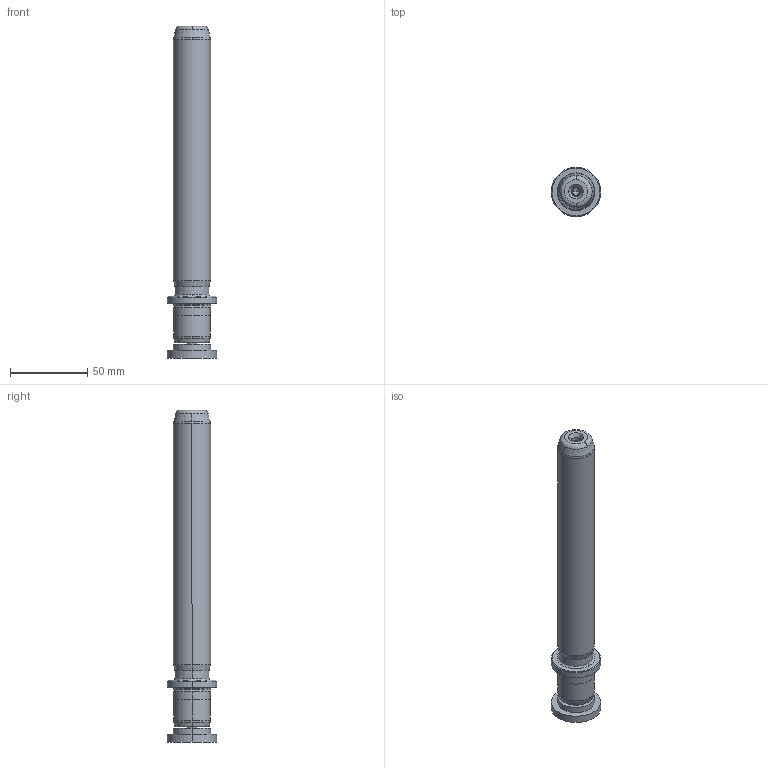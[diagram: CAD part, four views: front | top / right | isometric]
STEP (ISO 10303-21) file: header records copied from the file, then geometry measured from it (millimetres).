
FILE_DESCRIPTION((''),'2;1');
FILE_NAME('P22_024_180.stp','2009-02-02T15:31:14',(''),(''),'Mechanical Desktop 2009','Mechanical Desktop 2009',', , ');
FILE_SCHEMA(('CONFIG_CONTROL_DESIGN'));
Length unit declared in the file: millimetre
Products named in the file (2): Product; blmdl1
Assembly tree (1 placements, depth 2):
  Product
    blmdl1
Bounding box: 32 x 32 x 215 mm (x, y, z)
Volume: 97888.2 mm3; surface area: 20792.7 mm2
Topology: 3 solids, 3 shells, 99 faces, 237 edges, 149 vertices
Faces by surface type: cylinder 32, cone 28, plane 19, torus 10, bspline 10
Entity records: 3419 total; most frequent: CARTESIAN_POINT 923, DIRECTION 570, ORIENTED_EDGE 466, AXIS2_PLACEMENT_3D 246, EDGE_CURVE 233, CIRCLE 155, VERTEX_POINT 149, EDGE_LOOP 110
